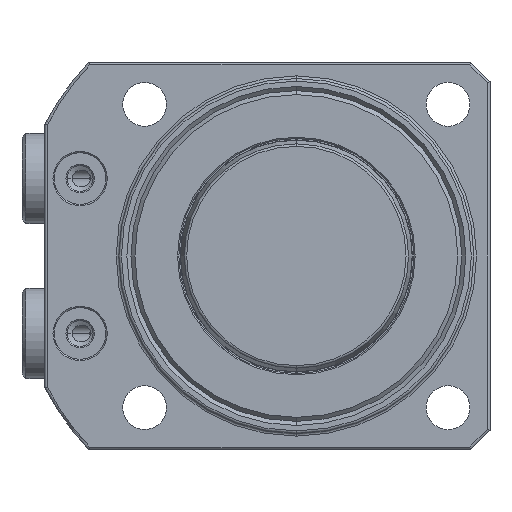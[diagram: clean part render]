
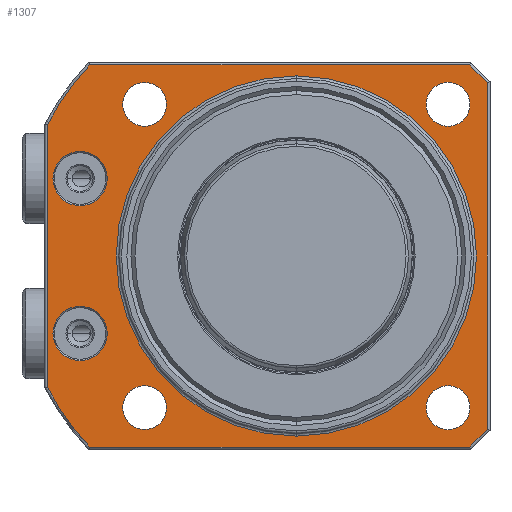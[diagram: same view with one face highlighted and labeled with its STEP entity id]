
A CAD part, front view. The second image highlights one B-rep face of the part: STEP entity #1307.
In plain terms, the highlighted planar face has unit normal (0, -1, 0) as drawn and (1, 0, 0) by its records, which use the part's own axes.
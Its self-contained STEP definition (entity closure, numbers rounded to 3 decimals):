
#1004=PLANE('',#4877);
#1044=FACE_BOUND('',#1808,.T.);
#1045=FACE_BOUND('',#1809,.T.);
#1046=FACE_BOUND('',#1810,.T.);
#1047=FACE_BOUND('',#1811,.T.);
#1048=FACE_BOUND('',#1812,.T.);
#1049=FACE_BOUND('',#1813,.T.);
#1050=FACE_BOUND('',#1814,.T.);
#1051=FACE_BOUND('',#1815,.T.);
#1307=ADVANCED_FACE('',(#1044,#1045,#1046,#1047,#1048,#1049,#1050,#1051),
#1004,.F.);
#1808=EDGE_LOOP('',(#3075,#3076));
#1809=EDGE_LOOP('',(#3077,#3078));
#1810=EDGE_LOOP('',(#3079,#3080,#3081,#3082,#3083,#3084,#3085,#3086));
#1811=EDGE_LOOP('',(#3087,#3088));
#1812=EDGE_LOOP('',(#3089,#3090));
#1813=EDGE_LOOP('',(#3091,#3092));
#1814=EDGE_LOOP('',(#3093,#3094));
#1815=EDGE_LOOP('',(#3095,#3096));
#2077=LINE('',#7740,#2282);
#2078=LINE('',#7743,#2283);
#2079=LINE('',#7745,#2284);
#2080=LINE('',#7747,#2285);
#2081=LINE('',#7749,#2286);
#2082=LINE('',#7753,#2287);
#2282=VECTOR('',#5894,1.);
#2283=VECTOR('',#5895,1.);
#2284=VECTOR('',#5896,1.);
#2285=VECTOR('',#5897,1.);
#2286=VECTOR('',#5898,1.);
#2287=VECTOR('',#5901,1.);
#3075=ORIENTED_EDGE('',*,*,#4027,.T.);
#3076=ORIENTED_EDGE('',*,*,#4187,.T.);
#3077=ORIENTED_EDGE('',*,*,#4017,.T.);
#3078=ORIENTED_EDGE('',*,*,#4188,.T.);
#3079=ORIENTED_EDGE('',*,*,#4189,.T.);
#3080=ORIENTED_EDGE('',*,*,#4190,.T.);
#3081=ORIENTED_EDGE('',*,*,#4191,.T.);
#3082=ORIENTED_EDGE('',*,*,#4192,.T.);
#3083=ORIENTED_EDGE('',*,*,#4193,.T.);
#3084=ORIENTED_EDGE('',*,*,#4194,.T.);
#3085=ORIENTED_EDGE('',*,*,#4195,.T.);
#3086=ORIENTED_EDGE('',*,*,#4196,.T.);
#3087=ORIENTED_EDGE('',*,*,#4197,.T.);
#3088=ORIENTED_EDGE('',*,*,#4039,.T.);
#3089=ORIENTED_EDGE('',*,*,#4198,.T.);
#3090=ORIENTED_EDGE('',*,*,#4134,.T.);
#3091=ORIENTED_EDGE('',*,*,#4199,.T.);
#3092=ORIENTED_EDGE('',*,*,#4142,.T.);
#3093=ORIENTED_EDGE('',*,*,#4200,.T.);
#3094=ORIENTED_EDGE('',*,*,#4150,.T.);
#3095=ORIENTED_EDGE('',*,*,#4201,.T.);
#3096=ORIENTED_EDGE('',*,*,#4158,.T.);
#3570=VERTEX_POINT('',#7148);
#3571=VERTEX_POINT('',#7150);
#3580=VERTEX_POINT('',#7170);
#3581=VERTEX_POINT('',#7172);
#3592=VERTEX_POINT('',#7198);
#3593=VERTEX_POINT('',#7199);
#3668=VERTEX_POINT('',#7567);
#3669=VERTEX_POINT('',#7568);
#3676=VERTEX_POINT('',#7594);
#3677=VERTEX_POINT('',#7595);
#3684=VERTEX_POINT('',#7621);
#3685=VERTEX_POINT('',#7622);
#3692=VERTEX_POINT('',#7648);
#3693=VERTEX_POINT('',#7649);
#3708=VERTEX_POINT('',#7741);
#3709=VERTEX_POINT('',#7742);
#3710=VERTEX_POINT('',#7744);
#3711=VERTEX_POINT('',#7746);
#3712=VERTEX_POINT('',#7748);
#3713=VERTEX_POINT('',#7750);
#3714=VERTEX_POINT('',#7752);
#3715=VERTEX_POINT('',#7754);
#4017=EDGE_CURVE('',#3571,#3570,#4386,.T.);
#4027=EDGE_CURVE('',#3581,#3580,#4392,.T.);
#4039=EDGE_CURVE('',#3592,#3593,#4401,.T.);
#4134=EDGE_CURVE('',#3668,#3669,#4443,.T.);
#4142=EDGE_CURVE('',#3676,#3677,#4446,.T.);
#4150=EDGE_CURVE('',#3684,#3685,#4449,.T.);
#4158=EDGE_CURVE('',#3692,#3693,#4452,.T.);
#4187=EDGE_CURVE('',#3580,#3581,#4464,.T.);
#4188=EDGE_CURVE('',#3570,#3571,#4465,.T.);
#4189=EDGE_CURVE('',#3708,#3709,#2077,.T.);
#4190=EDGE_CURVE('',#3709,#3710,#2078,.T.);
#4191=EDGE_CURVE('',#3710,#3711,#2079,.T.);
#4192=EDGE_CURVE('',#3711,#3712,#2080,.T.);
#4193=EDGE_CURVE('',#3712,#3713,#2081,.T.);
#4194=EDGE_CURVE('',#3713,#3714,#4466,.T.);
#4195=EDGE_CURVE('',#3714,#3715,#2082,.T.);
#4196=EDGE_CURVE('',#3715,#3708,#4467,.T.);
#4197=EDGE_CURVE('',#3593,#3592,#4468,.T.);
#4198=EDGE_CURVE('',#3669,#3668,#4469,.T.);
#4199=EDGE_CURVE('',#3677,#3676,#4470,.T.);
#4200=EDGE_CURVE('',#3685,#3684,#4471,.T.);
#4201=EDGE_CURVE('',#3693,#3692,#4472,.T.);
#4386=CIRCLE('',#4748,4.2);
#4392=CIRCLE('',#4756,4.2);
#4401=CIRCLE('',#4768,27.9);
#4443=CIRCLE('',#4834,3.4);
#4446=CIRCLE('',#4839,3.4);
#4449=CIRCLE('',#4844,3.4);
#4452=CIRCLE('',#4849,3.4);
#4464=CIRCLE('',#4868,4.2);
#4465=CIRCLE('',#4869,4.2);
#4466=CIRCLE('',#4870,43.6);
#4467=CIRCLE('',#4871,43.6);
#4468=CIRCLE('',#4872,27.9);
#4469=CIRCLE('',#4873,3.4);
#4470=CIRCLE('',#4874,3.4);
#4471=CIRCLE('',#4875,3.4);
#4472=CIRCLE('',#4876,3.4);
#4748=AXIS2_PLACEMENT_3D('',#7149,#5580,#5581);
#4756=AXIS2_PLACEMENT_3D('',#7171,#5600,#5601);
#4768=AXIS2_PLACEMENT_3D('',#7197,#5627,#5628);
#4834=AXIS2_PLACEMENT_3D('',#7566,#5801,#5802);
#4839=AXIS2_PLACEMENT_3D('',#7593,#5815,#5816);
#4844=AXIS2_PLACEMENT_3D('',#7620,#5829,#5830);
#4849=AXIS2_PLACEMENT_3D('',#7647,#5843,#5844);
#4868=AXIS2_PLACEMENT_3D('',#7738,#5890,#5891);
#4869=AXIS2_PLACEMENT_3D('',#7739,#5892,#5893);
#4870=AXIS2_PLACEMENT_3D('',#7751,#5899,#5900);
#4871=AXIS2_PLACEMENT_3D('',#7755,#5902,#5903);
#4872=AXIS2_PLACEMENT_3D('',#7756,#5904,#5905);
#4873=AXIS2_PLACEMENT_3D('',#7757,#5906,#5907);
#4874=AXIS2_PLACEMENT_3D('',#7758,#5908,#5909);
#4875=AXIS2_PLACEMENT_3D('',#7759,#5910,#5911);
#4876=AXIS2_PLACEMENT_3D('',#7760,#5912,#5913);
#4877=AXIS2_PLACEMENT_3D('',#7761,#5914,#5915);
#5580=DIRECTION('',(-1.,0.,0.));
#5581=DIRECTION('',(0.,0.,1.));
#5600=DIRECTION('',(-1.,0.,0.));
#5601=DIRECTION('',(0.,0.,1.));
#5627=DIRECTION('',(-1.,0.,0.));
#5628=DIRECTION('',(0.,0.,1.));
#5801=DIRECTION('',(-1.,0.,0.));
#5802=DIRECTION('',(0.,0.,1.));
#5815=DIRECTION('',(-1.,0.,0.));
#5816=DIRECTION('',(0.,0.,1.));
#5829=DIRECTION('',(-1.,0.,0.));
#5830=DIRECTION('',(0.,0.,1.));
#5843=DIRECTION('',(-1.,0.,0.));
#5844=DIRECTION('',(0.,0.,1.));
#5890=DIRECTION('',(-1.,0.,0.));
#5891=DIRECTION('',(0.,0.,1.));
#5892=DIRECTION('',(-1.,0.,0.));
#5893=DIRECTION('',(0.,0.,1.));
#5894=DIRECTION('',(0.,1.,0.));
#5895=DIRECTION('',(0.,0.707,0.707));
#5896=DIRECTION('',(0.,0.,1.));
#5897=DIRECTION('',(0.,-0.707,0.707));
#5898=DIRECTION('',(0.,-1.,0.));
#5899=DIRECTION('',(1.,0.,0.));
#5900=DIRECTION('',(0.,0.,1.));
#5901=DIRECTION('',(0.,0.,-1.));
#5902=DIRECTION('',(1.,0.,0.));
#5903=DIRECTION('',(0.,0.,1.));
#5904=DIRECTION('',(-1.,0.,0.));
#5905=DIRECTION('',(0.,0.,1.));
#5906=DIRECTION('',(-1.,0.,0.));
#5907=DIRECTION('',(0.,0.,1.));
#5908=DIRECTION('',(-1.,0.,0.));
#5909=DIRECTION('',(0.,0.,1.));
#5910=DIRECTION('',(-1.,0.,0.));
#5911=DIRECTION('',(0.,0.,1.));
#5912=DIRECTION('',(-1.,0.,0.));
#5913=DIRECTION('',(0.,0.,1.));
#5914=DIRECTION('',(-1.,0.,0.));
#5915=DIRECTION('',(0.,0.,-1.));
#7148=CARTESIAN_POINT('',(30.,-33.5,16.2));
#7149=CARTESIAN_POINT('',(30.,-33.5,12.));
#7150=CARTESIAN_POINT('',(30.,-33.5,7.8));
#7170=CARTESIAN_POINT('',(30.,-33.5,-7.8));
#7171=CARTESIAN_POINT('',(30.,-33.5,-12.));
#7172=CARTESIAN_POINT('',(30.,-33.5,-16.2));
#7197=CARTESIAN_POINT('',(30.,0.,0.));
#7198=CARTESIAN_POINT('',(30.,0.,-27.9));
#7199=CARTESIAN_POINT('',(30.,0.,27.9));
#7566=CARTESIAN_POINT('',(30.,23.5,-23.5));
#7567=CARTESIAN_POINT('',(30.,23.5,-26.9));
#7568=CARTESIAN_POINT('',(30.,23.5,-20.1));
#7593=CARTESIAN_POINT('',(30.,23.5,23.5));
#7594=CARTESIAN_POINT('',(30.,23.5,20.1));
#7595=CARTESIAN_POINT('',(30.,23.5,26.9));
#7620=CARTESIAN_POINT('',(30.,-23.5,23.5));
#7621=CARTESIAN_POINT('',(30.,-23.5,20.1));
#7622=CARTESIAN_POINT('',(30.,-23.5,26.9));
#7647=CARTESIAN_POINT('',(30.,-23.5,-23.5));
#7648=CARTESIAN_POINT('',(30.,-23.5,-26.9));
#7649=CARTESIAN_POINT('',(30.,-23.5,-20.1));
#7738=CARTESIAN_POINT('',(30.,-33.5,-12.));
#7739=CARTESIAN_POINT('',(30.,-33.5,12.));
#7740=CARTESIAN_POINT('',(30.,44.,-29.6));
#7741=CARTESIAN_POINT('',(30.,-32.012,-29.6));
#7742=CARTESIAN_POINT('',(30.,26.834,-29.6));
#7743=CARTESIAN_POINT('',(30.,29.717,-26.717));
#7744=CARTESIAN_POINT('',(30.,29.6,-26.834));
#7745=CARTESIAN_POINT('',(30.,29.6,0.));
#7746=CARTESIAN_POINT('',(30.,29.6,26.834));
#7747=CARTESIAN_POINT('',(30.,26.717,29.717));
#7748=CARTESIAN_POINT('',(30.,26.834,29.6));
#7749=CARTESIAN_POINT('',(30.,44.,29.6));
#7750=CARTESIAN_POINT('',(30.,-32.012,29.6));
#7751=CARTESIAN_POINT('',(30.,0.,0.));
#7752=CARTESIAN_POINT('',(30.,-38.6,20.273));
#7753=CARTESIAN_POINT('',(30.,-38.6,0.));
#7754=CARTESIAN_POINT('',(30.,-38.6,-20.273));
#7755=CARTESIAN_POINT('',(30.,0.,0.));
#7756=CARTESIAN_POINT('',(30.,0.,0.));
#7757=CARTESIAN_POINT('',(30.,23.5,-23.5));
#7758=CARTESIAN_POINT('',(30.,23.5,23.5));
#7759=CARTESIAN_POINT('',(30.,-23.5,23.5));
#7760=CARTESIAN_POINT('',(30.,-23.5,-23.5));
#7761=CARTESIAN_POINT('',(30.,44.,0.));
